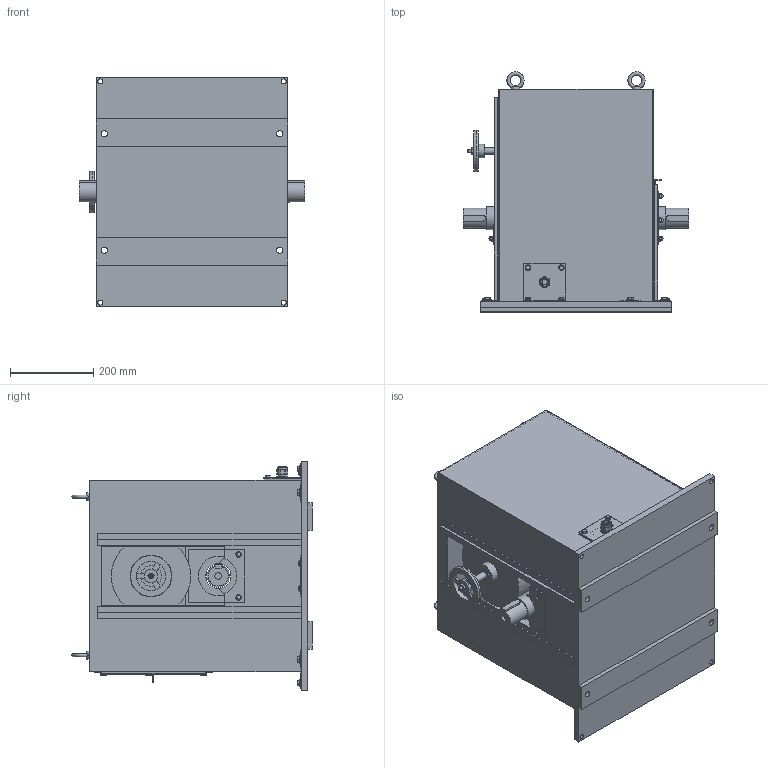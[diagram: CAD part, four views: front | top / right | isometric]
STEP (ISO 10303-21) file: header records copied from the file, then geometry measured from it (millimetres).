
FILE_DESCRIPTION (( 'STEP AP203' ), '1' );
FILE_NAME ('ECE-1513S-05_水門用直流電磁ブレーキ.STEP', '2026-04-06T08:01:02', ( '' ), ( '' ), 'SwSTEP 2.0', 'SolidWorks 2025', '' );
FILE_SCHEMA (( 'CONFIG_CONTROL_DESIGN' ));
Length unit declared in the file: millimetre
Products named in the file (1): ECE-1513S-05_水門用直流電磁ブレーキ
Bounding box: 540 x 575.46 x 550 mm (x, y, z)
Volume: 15055182.1 mm3; surface area: 3255294.5 mm2
Topology: 4 solids, 4 shells, 957 faces, 2396 edges, 1532 vertices
Faces by surface type: plane 663, cone 154, cylinder 124, sphere 12, torus 4
Full cylindrical faces by diameter (mm): 6 x2, 7 x2, 8 x4, 8.5 x4, 10 x12, 12 x4, 13 x17, 15 x8, 16 x2, 18 x7, 20 x1, 22 x1, 23 x1, 25 x1, 28 x1, 33 x2, 48 x2, 50 x1, 55 x3, 60 x1, 70 x1, 190 x1
Entity records: 28727 total; most frequent: CARTESIAN_POINT 6578, ORIENTED_EDGE 4530, DIRECTION 4290, EDGE_CURVE 2265, VECTOR 1544, LINE 1544, VERTEX_POINT 1493, AXIS2_PLACEMENT_3D 1373
